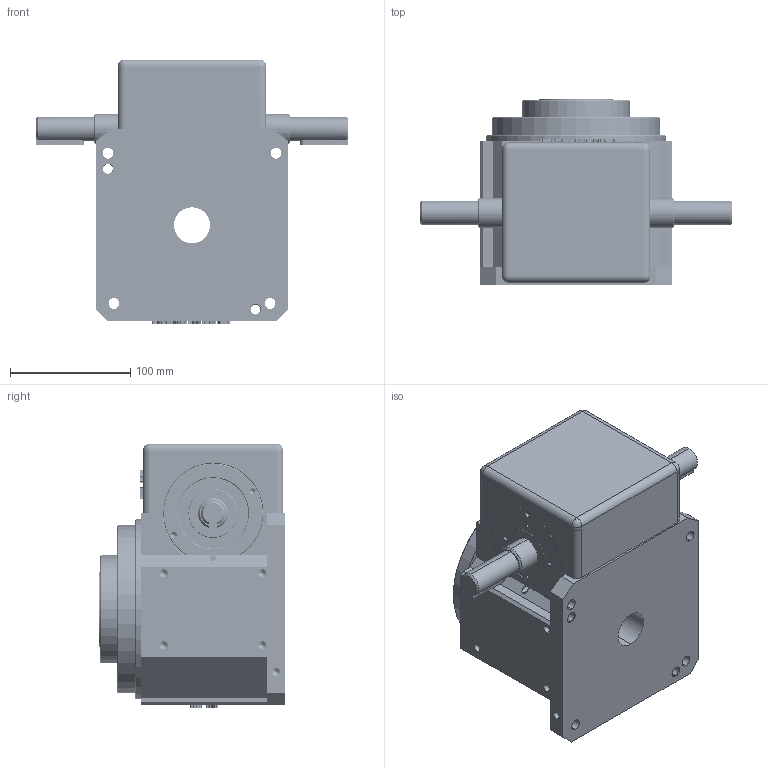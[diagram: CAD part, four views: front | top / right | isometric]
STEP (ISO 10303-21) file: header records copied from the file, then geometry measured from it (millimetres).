
FILE_DESCRIPTION (( 'STEP AP214' ), '1' );
FILE_NAME ('ER-RU80DT英锐凸轮分割器3D固定盘壳体和法兰面加销孔标准图纸(电话15062628977)AABBBCCC.STEP', '2022-08-20T10:10:21', ( '微软用户' ), ( '微软中国' ), 'SwSTEP 2.0', 'SolidWorks 2017', '' );
FILE_SCHEMA (( 'AUTOMOTIVE_DESIGN' ));
Length unit declared in the file: millimetre
Products named in the file (1): ER-RU80DT英锐凸轮分割器3D固定盘壳体和法兰面加销孔标准图纸(电话15062628977)AABBBCCC
Bounding box: 260 x 155 x 220.5 mm (x, y, z)
Volume: 3877433.6 mm3; surface area: 206976.2 mm2
Topology: 1 solids, 1 shells, 1820 faces, 4802 edges, 3073 vertices
Faces by surface type: cylinder 793, plane 461, bspline 359, cone 203, sphere 4
Entity records: 119847 total; most frequent: CARTESIAN_POINT 80843, ORIENTED_EDGE 9434, DIRECTION 6105, EDGE_CURVE 4717, VERTEX_POINT 3073, VECTOR 2171, LINE 2171, EDGE_LOOP 2012
